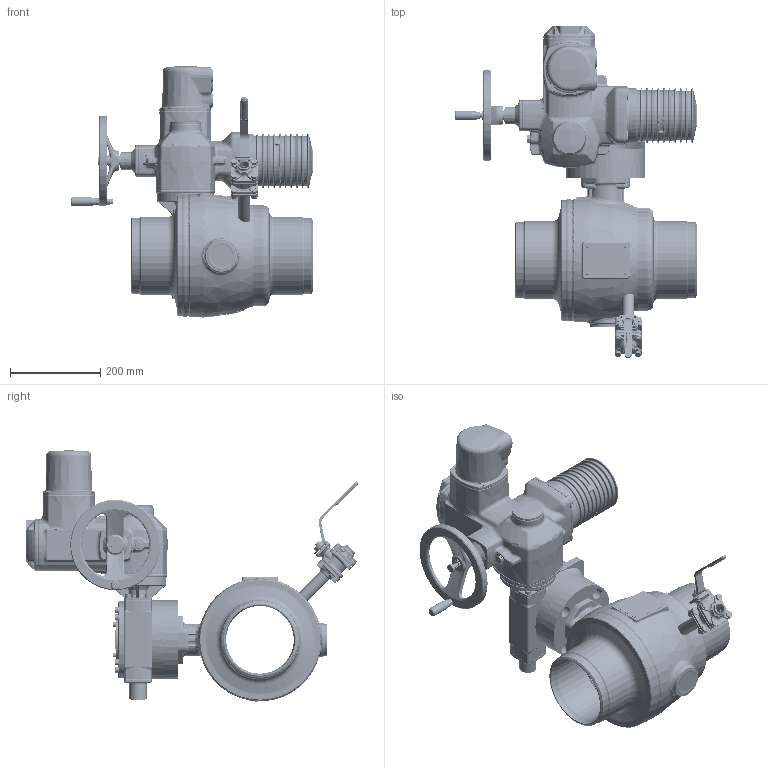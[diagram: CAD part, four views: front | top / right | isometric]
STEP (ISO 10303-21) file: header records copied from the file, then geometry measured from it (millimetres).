
FILE_DESCRIPTION((''),'2;1');
FILE_NAME('ASM0001_ASM','2026-01-28T10:04:06',('schwaba'),('KLINGER'),'CREO PARAMETRIC BY PTC INC, 2023014','CREO PARAMETRIC BY PTC INC, 2023014','');
FILE_SCHEMA(('CONFIG_CONTROL_DESIGN'));
Length unit declared in the file: millimetre
Products named in the file (7): KHSVI_150_FG_FR_WE_F14_ENTL; GS80_3_F14_53; AUFSATZFLANSCH_F10_GS63-GS80; ZYLSCHR-ISKT--M8X25---8_8; GS80_3_53_F14---------------F10_ASM; SA10_2_F10_STD; ASM0001_ASM
Assembly tree (9 placements, depth 3):
  ASM0001_ASM
    KHSVI_150_FG_FR_WE_F14_ENTL
    GS80_3_53_F14---------------F10_ASM
      GS80_3_F14_53
      AUFSATZFLANSCH_F10_GS63-GS80
      ZYLSCHR-ISKT--M8X25---8_8  x4
    SA10_2_F10_STD
Bounding box: 536.21 x 734.7 x 556.3 mm (x, y, z)
Volume: 17694573.6 mm3; surface area: 1936351 mm2
Topology: 8 solids, 16 shells, 6058 faces, 14468 edges, 8487 vertices
Faces by surface type: cylinder 1467, plane 1435, bspline 1253, torus 933, cone 724, sphere 167, extrusion 58, revolution 21
Entity records: 339380 total; most frequent: CARTESIAN_POINT 211001, ORIENTED_EDGE 28296, DIRECTION 24820, EDGE_CURVE 14151, AXIS2_PLACEMENT_3D 10444, VERTEX_POINT 8382, EDGE_LOOP 6303, FACE_OUTER_BOUND 5986
